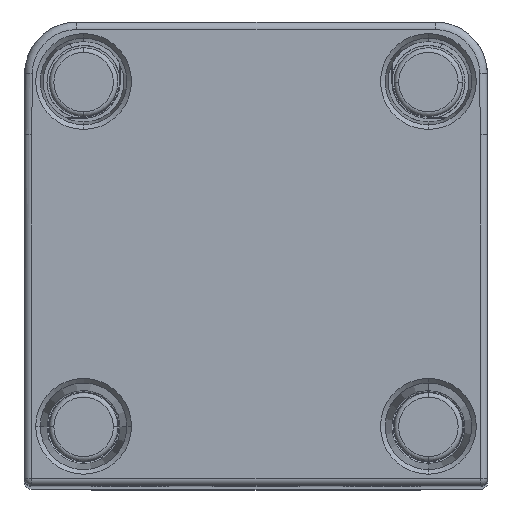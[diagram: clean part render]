
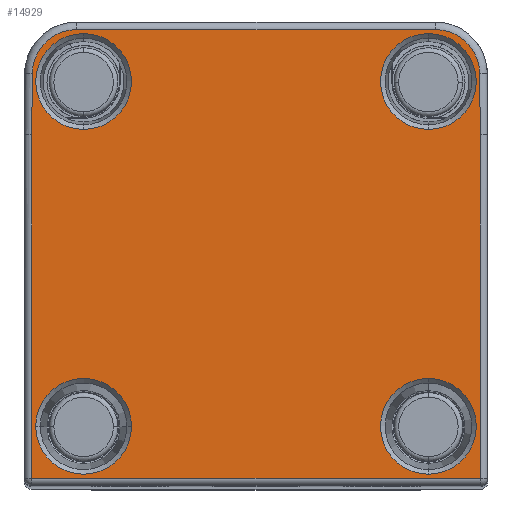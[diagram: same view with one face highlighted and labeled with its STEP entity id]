
A CAD part, top view. The second image highlights one B-rep face of the part: STEP entity #14929.
In plain terms, the highlighted planar face has unit normal (0, 0, 1) as drawn and (-1, 0, 0) by its records, which use the part's own axes.
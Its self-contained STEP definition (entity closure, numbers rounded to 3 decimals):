
#9623=DIRECTION('',(0.,0.,-1.));
#9624=VECTOR('',#9623,23.516);
#9625=CARTESIAN_POINT('',(-22.,14.7,11.758));
#9626=LINE('',#9625,#9624);
#9630=CARTESIAN_POINT('',(-22.,11.8,11.758));
#9631=DIRECTION('',(-1.,0.,0.));
#9632=DIRECTION('',(0.,0.01,1.));
#9633=AXIS2_PLACEMENT_3D('',#9630,#9631,#9632);
#9638=DIRECTION('',(0.,1.,-0.01));
#9639=VECTOR('',#9638,4.033);
#9640=CARTESIAN_POINT('',(-22.,7.797,14.7));
#9641=LINE('',#9640,#9639);
#9645=DIRECTION('',(0.,1.,0.));
#9646=VECTOR('',#9645,22.497);
#9647=CARTESIAN_POINT('',(-22.,-14.7,
14.699));
#9648=LINE('',#9647,#9646);
#9652=DIRECTION('',(0.,0.,1.));
#9653=VECTOR('',#9652,29.398);
#9654=CARTESIAN_POINT('',(-22.,-14.7,
-14.699));
#9655=LINE('',#9654,#9653);
#9659=DIRECTION('',(0.,-1.,0.));
#9660=VECTOR('',#9659,22.497);
#9661=CARTESIAN_POINT('',(-22.,7.797,
-14.7));
#9662=LINE('',#9661,#9660);
#9666=DIRECTION('',(0.,-1.,-0.01));
#9667=VECTOR('',#9666,4.033);
#9668=CARTESIAN_POINT('',(-22.,11.83,-14.658));
#9669=LINE('',#9668,#9667);
#9673=CARTESIAN_POINT('',(-22.,11.8,-11.758));
#9674=DIRECTION('',(-1.,0.,0.));
#9675=DIRECTION('',(0.,1.,0.));
#9676=AXIS2_PLACEMENT_3D('',#9673,#9674,#9675);
#9681=CARTESIAN_POINT('',(-22.,-11.3,11.3));
#9682=DIRECTION('',(1.,0.,0.));
#9683=DIRECTION('',(0.,1.,0.));
#9684=AXIS2_PLACEMENT_3D('',#9681,#9682,#9683);
#9689=CARTESIAN_POINT('',(-22.,-11.3,11.3));
#9690=DIRECTION('',(1.,0.,0.));
#9691=DIRECTION('',(0.,-1.,0.));
#9692=AXIS2_PLACEMENT_3D('',#9689,#9690,#9691);
#9697=CARTESIAN_POINT('',(-22.,-11.3,-11.3));
#9698=DIRECTION('',(1.,0.,0.));
#9699=DIRECTION('',(0.,0.,1.));
#9700=AXIS2_PLACEMENT_3D('',#9697,#9698,#9699);
#9705=CARTESIAN_POINT('',(-22.,-11.3,-11.3));
#9706=DIRECTION('',(1.,0.,0.));
#9707=DIRECTION('',(0.,0.,-1.));
#9708=AXIS2_PLACEMENT_3D('',#9705,#9706,#9707);
#9713=CARTESIAN_POINT('',(-22.,11.3,11.3));
#9714=DIRECTION('',(1.,0.,0.));
#9715=DIRECTION('',(0.,1.,0.));
#9716=AXIS2_PLACEMENT_3D('',#9713,#9714,#9715);
#9721=CARTESIAN_POINT('',(-22.,11.3,11.3));
#9722=DIRECTION('',(1.,0.,0.));
#9723=DIRECTION('',(0.,-1.,0.));
#9724=AXIS2_PLACEMENT_3D('',#9721,#9722,#9723);
#9729=CARTESIAN_POINT('',(-22.,11.3,-11.3));
#9730=DIRECTION('',(1.,0.,0.));
#9731=DIRECTION('',(0.,1.,0.));
#9732=AXIS2_PLACEMENT_3D('',#9729,#9730,#9731);
#9737=CARTESIAN_POINT('',(-22.,11.3,-11.3));
#9738=DIRECTION('',(1.,0.,0.));
#9739=DIRECTION('',(0.,-1.,0.));
#9740=AXIS2_PLACEMENT_3D('',#9737,#9738,#9739);
#13463=CARTESIAN_POINT('',(-22.,-8.159,11.3));
#13464=CARTESIAN_POINT('',(-22.,-14.441,11.3));
#13465=VERTEX_POINT('',#13463);
#13466=VERTEX_POINT('',#13464);
#13471=CARTESIAN_POINT('',(-22.,-11.3,-8.159));
#13472=CARTESIAN_POINT('',(-22.,-11.3,-14.441));
#13473=VERTEX_POINT('',#13471);
#13474=VERTEX_POINT('',#13472);
#13479=CARTESIAN_POINT('',(-22.,14.7,11.758));
#13480=CARTESIAN_POINT('',(-22.,14.7,-11.758));
#13481=VERTEX_POINT('',#13479);
#13482=VERTEX_POINT('',#13480);
#13487=CARTESIAN_POINT('',(-22.,7.797,
-14.7));
#13488=CARTESIAN_POINT('',(-22.,-14.7,
-14.699));
#13489=VERTEX_POINT('',#13487);
#13490=VERTEX_POINT('',#13488);
#13495=CARTESIAN_POINT('',(-22.,-14.7,
14.699));
#13496=VERTEX_POINT('',#13495);
#13501=CARTESIAN_POINT('',(-22.,7.797,
14.7));
#13502=VERTEX_POINT('',#13501);
#13517=CARTESIAN_POINT('',(-22.,14.441,11.3));
#13518=CARTESIAN_POINT('',(-22.,8.159,11.3));
#13519=VERTEX_POINT('',#13517);
#13520=VERTEX_POINT('',#13518);
#13525=CARTESIAN_POINT('',(-22.,14.441,-11.3));
#13526=CARTESIAN_POINT('',(-22.,8.159,-11.3));
#13527=VERTEX_POINT('',#13525);
#13528=VERTEX_POINT('',#13526);
#13561=CARTESIAN_POINT('',(-22.,11.83,-14.658));
#13562=VERTEX_POINT('',#13561);
#13565=CARTESIAN_POINT('',(-22.,11.83,14.658));
#13566=VERTEX_POINT('',#13565);
#14883=CARTESIAN_POINT('',(-22.,0.,0.));
#14884=DIRECTION('',(1.,0.,0.));
#14885=DIRECTION('',(0.,1.,0.));
#14886=AXIS2_PLACEMENT_3D('',#14883,#14884,#14885);
#14887=PLANE('',#14886);
#14889=ORIENTED_EDGE('',*,*,#14888,.F.);
#14891=ORIENTED_EDGE('',*,*,#14890,.F.);
#14893=ORIENTED_EDGE('',*,*,#14892,.F.);
#14894=ORIENTED_EDGE('',*,*,#14873,.F.);
#14896=ORIENTED_EDGE('',*,*,#14895,.F.);
#14898=ORIENTED_EDGE('',*,*,#14897,.F.);
#14900=ORIENTED_EDGE('',*,*,#14899,.F.);
#14902=ORIENTED_EDGE('',*,*,#14901,.F.);
#14903=EDGE_LOOP('',(#14889,#14891,#14893,#14894,#14896,#14898,#14900,#14902));
#14904=FACE_OUTER_BOUND('',#14903,.F.);
#14906=ORIENTED_EDGE('',*,*,#14905,.F.);
#14908=ORIENTED_EDGE('',*,*,#14907,.F.);
#14909=EDGE_LOOP('',(#14906,#14908));
#14910=FACE_BOUND('',#14909,.F.);
#14912=ORIENTED_EDGE('',*,*,#14911,.F.);
#14914=ORIENTED_EDGE('',*,*,#14913,.F.);
#14915=EDGE_LOOP('',(#14912,#14914));
#14916=FACE_BOUND('',#14915,.F.);
#14918=ORIENTED_EDGE('',*,*,#14917,.F.);
#14920=ORIENTED_EDGE('',*,*,#14919,.F.);
#14921=EDGE_LOOP('',(#14918,#14920));
#14922=FACE_BOUND('',#14921,.F.);
#14924=ORIENTED_EDGE('',*,*,#14923,.F.);
#14926=ORIENTED_EDGE('',*,*,#14925,.F.);
#14927=EDGE_LOOP('',(#14924,#14926));
#14928=FACE_BOUND('',#14927,.F.);
#9634=CIRCLE('',#9633,2.9);
#9677=CIRCLE('',#9676,2.9);
#9685=CIRCLE('',#9684,3.141);
#9693=CIRCLE('',#9692,3.141);
#9701=CIRCLE('',#9700,3.141);
#9709=CIRCLE('',#9708,3.141);
#9717=CIRCLE('',#9716,3.141);
#9725=CIRCLE('',#9724,3.141);
#9733=CIRCLE('',#9732,3.141);
#9741=CIRCLE('',#9740,3.141);
#14873=EDGE_CURVE('',#13496,#13502,#9648,.T.);
#14888=EDGE_CURVE('',#13481,#13482,#9626,.T.);
#14890=EDGE_CURVE('',#13566,#13481,#9634,.T.);
#14892=EDGE_CURVE('',#13502,#13566,#9641,.T.);
#14895=EDGE_CURVE('',#13490,#13496,#9655,.T.);
#14897=EDGE_CURVE('',#13489,#13490,#9662,.T.);
#14899=EDGE_CURVE('',#13562,#13489,#9669,.T.);
#14901=EDGE_CURVE('',#13482,#13562,#9677,.T.);
#14905=EDGE_CURVE('',#13465,#13466,#9685,.T.);
#14907=EDGE_CURVE('',#13466,#13465,#9693,.T.);
#14911=EDGE_CURVE('',#13473,#13474,#9701,.T.);
#14913=EDGE_CURVE('',#13474,#13473,#9709,.T.);
#14917=EDGE_CURVE('',#13519,#13520,#9717,.T.);
#14919=EDGE_CURVE('',#13520,#13519,#9725,.T.);
#14923=EDGE_CURVE('',#13527,#13528,#9733,.T.);
#14925=EDGE_CURVE('',#13528,#13527,#9741,.T.);
#14929=ADVANCED_FACE('',(#14904,#14910,#14916,#14922,#14928),#14887,.F.);
